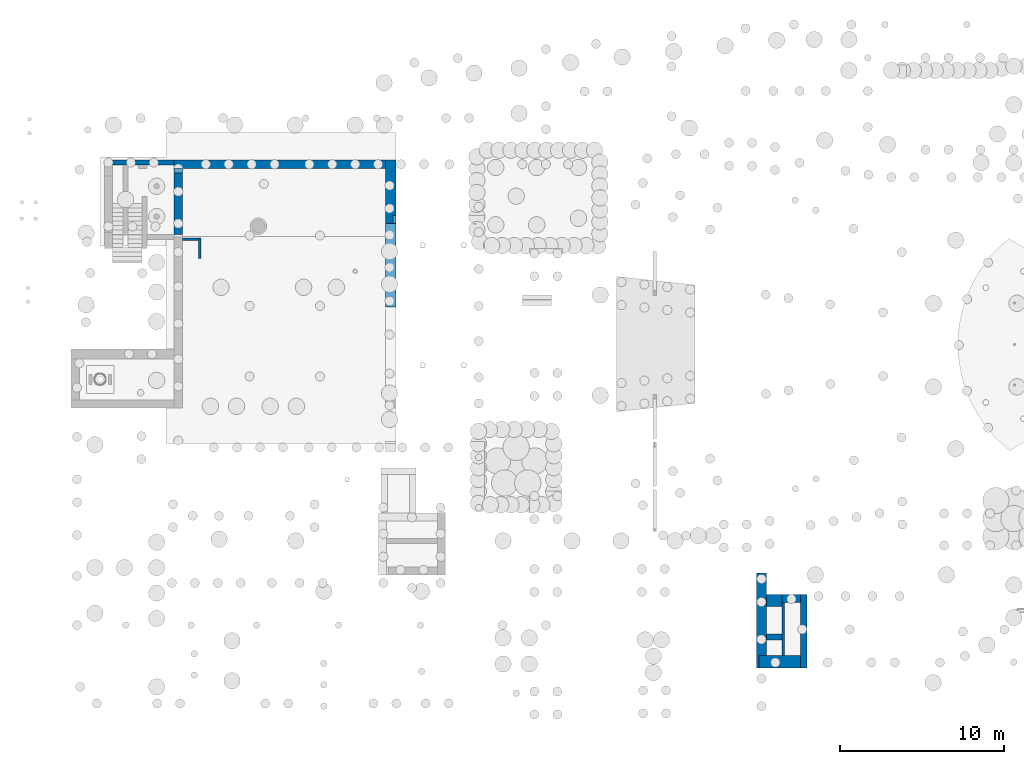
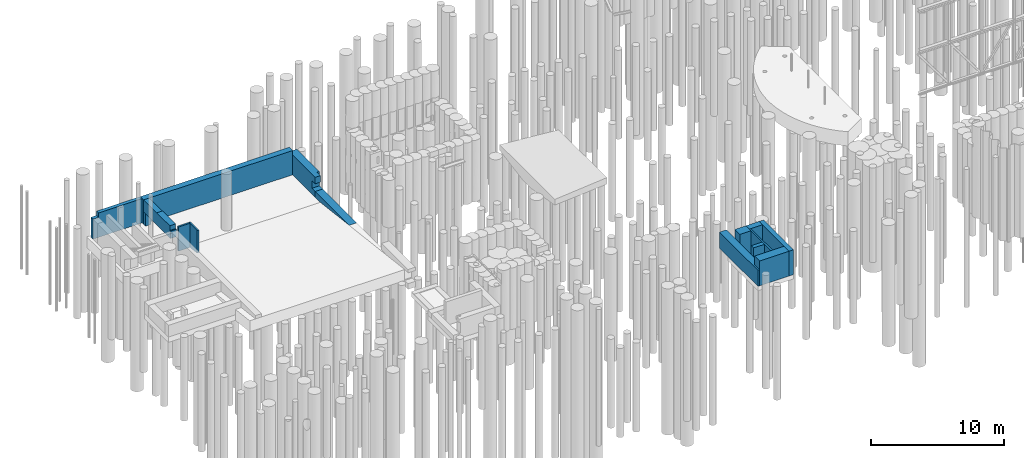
# One storey, part 15 of 104: 15 walls, 3 openings.
"""IFC2X3 building model written with IfcOpenShell, lengths in millimetres."""

from ifc_helpers import new_model, entity, si_unit, converted_unit, derived_unit, direction, frame, frame_2d, origin, place, context, subcontext, project, spatial, polyline, rectangle, extrude, clip, bounded_halfspace, faceted_brep, material, layer, layer_set, layer_usage, type_object, element, save


model = new_model("IFC2X3")

# Units and contexts
model_context = context("Model", 3, precision=0.01, world=origin(), true_north=direction((6.12303176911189e-17, 1.0)))
body_context = subcontext(model_context, "Body", "Model", "MODEL_VIEW")
ifc_project = project(units=[si_unit("LENGTHUNIT", "METRE", prefix="MILLI"), si_unit("AREAUNIT", "SQUARE_METRE", prefix="MILLI"), si_unit("VOLUMEUNIT", "CUBIC_METRE"), converted_unit("PLANEANGLEUNIT", "DEGREE", entity("IfcRatioMeasure", 0.0174532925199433), si_unit("PLANEANGLEUNIT", "RADIAN"), dimensions=[0, 0, 0, 0, 0, 0, 0]), si_unit("MASSUNIT", "GRAM", prefix="KILO"), derived_unit("MASSDENSITYUNIT", [(si_unit("MASSUNIT", "GRAM", prefix="KILO"), 1), (si_unit("LENGTHUNIT", "METRE"), -3)]), derived_unit("MOMENTOFINERTIAUNIT", [(si_unit("LENGTHUNIT", "METRE"), 4)]), si_unit("TIMEUNIT", "SECOND"), si_unit("FREQUENCYUNIT", "HERTZ"), si_unit("THERMODYNAMICTEMPERATUREUNIT", "DEGREE_CELSIUS"), derived_unit("THERMALTRANSMITTANCEUNIT", [(si_unit("MASSUNIT", "GRAM", prefix="KILO"), 1), (si_unit("THERMODYNAMICTEMPERATUREUNIT", "KELVIN"), -1), (si_unit("TIMEUNIT", "SECOND"), -3)]), derived_unit("VOLUMETRICFLOWRATEUNIT", [(si_unit("LENGTHUNIT", "METRE"), 3), (si_unit("TIMEUNIT", "SECOND"), -1)]), si_unit("ELECTRICCURRENTUNIT", "AMPERE"), si_unit("ELECTRICVOLTAGEUNIT", "VOLT"), si_unit("POWERUNIT", "WATT"), si_unit("FORCEUNIT", "NEWTON", prefix="KILO"), si_unit("ILLUMINANCEUNIT", "LUX"), si_unit("LUMINOUSFLUXUNIT", "LUMEN"), si_unit("LUMINOUSINTENSITYUNIT", "CANDELA"), derived_unit("USERDEFINED", [(si_unit("MASSUNIT", "GRAM", prefix="KILO"), -1), (si_unit("LENGTHUNIT", "METRE"), -2), (si_unit("TIMEUNIT", "SECOND"), 3), (si_unit("LUMINOUSFLUXUNIT", "LUMEN"), 1)]), derived_unit("LINEARVELOCITYUNIT", [(si_unit("LENGTHUNIT", "METRE"), 1), (si_unit("TIMEUNIT", "SECOND"), -1)]), si_unit("PRESSUREUNIT", "PASCAL"), derived_unit("USERDEFINED", [(si_unit("LENGTHUNIT", "METRE"), -2), (si_unit("MASSUNIT", "GRAM", prefix="KILO"), 1), (si_unit("TIMEUNIT", "SECOND"), -2)]), derived_unit("LINEARFORCEUNIT", [(si_unit("MASSUNIT", "GRAM", prefix="KILO"), 1), (si_unit("LENGTHUNIT", "METRE"), 1), (si_unit("TIMEUNIT", "SECOND"), -2), (si_unit("LENGTHUNIT", "METRE"), -1)]), derived_unit("PLANARFORCEUNIT", [(si_unit("MASSUNIT", "GRAM", prefix="KILO"), 1), (si_unit("LENGTHUNIT", "METRE"), 1), (si_unit("TIMEUNIT", "SECOND"), -2), (si_unit("LENGTHUNIT", "METRE"), -2)])], contexts=[model_context])

# Site, building, storey
site_placement = place(None, origin())
site = spatial("IfcSite", under=ifc_project, at=site_placement, Name="Theater aan de Parade", CompositionType="ELEMENT")
building_placement = place(site_placement, origin())
building = spatial("IfcBuilding", under=site, at=building_placement, Name="Theater aan de Parade", CompositionType="ELEMENT")
storey_placement = place(building_placement, frame((0.0, 0.0, -5520.0)))
storey = spatial("IfcBuildingStorey", under=building, at=storey_placement, Name="-2 kelder", CompositionType="ELEMENT", Elevation=-5520.0)

# Walls
ifc_material_1 = material(Name="00_PBT_MAT_beton t.p.g.")
ifc_layer_1 = layer(ifc_material_1, 300.0)
ifc_layer_set_1 = layer_set([ifc_layer_1], Name="Basic Wall:16_PBT_WA_beton t.p.g._d=300_bestaand")
ifc_layer_usage_1 = layer_usage(ifc_layer_set_1, "AXIS2", "POSITIVE", -150.0)
wall_type_1 = type_object("IfcWallType", Name="Basic Wall:16_PBT_WA_beton t.p.g._d=300_bestaand", PredefinedType="STANDARD", material=ifc_layer_set_1)
wall_1_placement = place(storey_placement, frame((16275.0, 43550.0, -40.0), z_axis=(0.0, 0.0, 1.0), x_axis=(-1.0, 0.0, 0.0)))
element("IfcWallStandardCase", 1, at=wall_1_placement, inside=storey, type_object=wall_type_1, material=ifc_layer_usage_1, Name="Basic Wall:16_PBT_WA_beton t.p.g._d=300_bestaand", ObjectType="Basic Wall:16_PBT_WA_beton t.p.g._d=300_bestaand", context=body_context, shape_type="Clipping", body=[
    clip(clip(extrude(rectangle(XDim=4265.00000000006, YDim=300.000000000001, at=frame_2d((2132.50000000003, -9.66338120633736e-13), x_axis=(-1.0, 0.0))), origin(), (0.0, 0.0, 1.0), 2220.0), bounded_halfspace(frame((3765.0, 150.0, 1820.0), z_axis=(0.0, 0.0, -1.0), x_axis=(0.0, -1.0, 0.0)), True, frame((3765.0, 150.0, 1820.0), z_axis=(0.0, 0.0, -1.0), x_axis=(0.0, -1.0, 0.0)), polyline([(0.0, 0.0), (0.0, -500.0), (300.0, -500.0), (300.0, 0.0), (0.0, 0.0)]))), bounded_halfspace(frame((3765.0, -150.0, 1820.0), z_axis=(-1.0, 0.0, 0.0), x_axis=(0.0, 0.0, 1.0)), True, frame((3765.0, -150.0, 1820.0), z_axis=(-1.0, 0.0, 0.0), x_axis=(0.0, 0.0, 1.0)), polyline([(0.0, 0.0), (400.0, 0.0), (400.0, 300.0), (0.0, 300.0), (0.0, 0.0)]))),
])
ifc_layer_2 = layer(ifc_material_1, 400.0)
ifc_layer_set_2 = layer_set([ifc_layer_2], Name="Basic Wall:16_PBT_WA_beton t.p.g._d=400_bestaand")
ifc_layer_usage_2 = layer_usage(ifc_layer_set_2, "AXIS2", "POSITIVE", -200.0)
wall_type_2 = type_object("IfcWallType", Name="Basic Wall:16_PBT_WA_beton t.p.g._d=400_bestaand", PredefinedType="STANDARD", material=ifc_layer_set_2)
wall_2_placement = place(storey_placement, frame((54715.0, 12710.0, 320.0), z_axis=(0.0, 0.0, 1.0), x_axis=(0.0, 1.0, 0.0)))
element("IfcWallStandardCase", 2, at=wall_2_placement, inside=storey, type_object=wall_type_2, material=ifc_layer_usage_2, Name="Basic Wall:16_PBT_WA_beton t.p.g._d=400_bestaand", ObjectType="Basic Wall:16_PBT_WA_beton t.p.g._d=400_bestaand", context=body_context, shape_type="SweptSolid", body=[
    extrude(rectangle(XDim=4490.00000000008, YDim=399.999999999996, at=frame_2d((2245.00000000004, 0.0), x_axis=(-1.0, 0.0))), origin(), (0.0, 0.0, 1.0), 2270.0),
])
ifc_layer_3 = layer(ifc_material_1, 500.0)
ifc_layer_set_3 = layer_set([ifc_layer_3], Name="Basic Wall:16_PBT_WA_beton t.p.g._d=500_bestaand")
ifc_layer_usage_3 = layer_usage(ifc_layer_set_3, "AXIS2", "POSITIVE", -250.0)
wall_type_3 = type_object("IfcWallType", Name="Basic Wall:16_PBT_WA_beton t.p.g._d=500_bestaand", PredefinedType="STANDARD", material=ifc_layer_set_3)
wall_3_placement = place(storey_placement, frame((54515.0, 16950.0, 320.0), z_axis=(0.0, 0.0, 1.0), x_axis=(-1.0, 0.0, 0.0)))
element("IfcWallStandardCase", 3, at=wall_3_placement, inside=storey, type_object=wall_type_3, material=ifc_layer_usage_3, Name="Basic Wall:16_PBT_WA_beton t.p.g._d=500_bestaand", ObjectType="Basic Wall:16_PBT_WA_beton t.p.g._d=500_bestaand", context=body_context, shape_type="SweptSolid", body=[
    extrude(rectangle(XDim=1140.0, YDim=499.999999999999, at=frame_2d((570.0, -3.26849658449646e-13), x_axis=(-1.0, 0.0))), origin(), (0.0, 0.0, 1.0), 2270.0),
])
ifc_layer_usage_4 = layer_usage(ifc_layer_set_3, "AXIS2", "NEGATIVE", 250.0)
wall_4_placement = place(storey_placement, frame((16275.0, 43450.0, -40.0)))
element("IfcWallStandardCase", 4, at=wall_4_placement, inside=storey, type_object=wall_type_3, material=ifc_layer_usage_4, Name="Basic Wall:16_PBT_WA_beton t.p.g._d=500_bestaand", ObjectType="Basic Wall:16_PBT_WA_beton t.p.g._d=500_bestaand", context=body_context, shape_type="SweptSolid", body=[
    extrude(rectangle(XDim=12900.0, YDim=500.000000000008, at=frame_2d((6450.0, 2.21689333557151e-12), x_axis=(-1.0, 0.0))), origin(), (0.0, 0.0, 1.0), 2220.0),
])
ifc_layer_4 = layer(ifc_material_1, 750.0)
ifc_layer_set_4 = layer_set([ifc_layer_4], Name="Basic Wall:16_PBT_WA_beton t.p.g._d=750_bestaand")
ifc_layer_usage_5 = layer_usage(ifc_layer_set_4, "AXIS2", "POSITIVE", -375.0)
wall_type_4 = type_object("IfcWallType", Name="Basic Wall:16_PBT_WA_beton t.p.g._d=750_bestaand", PredefinedType="STANDARD", material=ifc_layer_set_4)
wall_5_placement = place(storey_placement, frame((54515.0, 13085.0, 320.0), z_axis=(0.0, 0.0, 1.0), x_axis=(-1.0, 0.0, 0.0)))
element("IfcWallStandardCase", 5, at=wall_5_placement, inside=storey, type_object=wall_type_4, material=ifc_layer_usage_5, Name="Basic Wall:16_PBT_WA_beton t.p.g._d=750_bestaand", ObjectType="Basic Wall:16_PBT_WA_beton t.p.g._d=750_bestaand", context=body_context, shape_type="SweptSolid", body=[
    extrude(rectangle(XDim=2540.0, YDim=749.999999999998, at=frame_2d((1270.0, -4.83169060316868e-13), x_axis=(-1.0, 0.0))), origin(), (0.0, 0.0, 1.0), 2270.0),
])
ifc_layer_usage_6 = layer_usage(ifc_layer_set_4, "AXIS2", "POSITIVE", -375.0)
wall_6_placement = place(storey_placement, frame((53375.0, 16825.0, 320.0), z_axis=(0.0, 0.0, 1.0), x_axis=(-1.0, 0.0, 0.0)))
element("IfcWallStandardCase", 6, at=wall_6_placement, inside=storey, type_object=wall_type_4, material=ifc_layer_usage_6, Name="Basic Wall:16_PBT_WA_beton t.p.g._d=750_bestaand", ObjectType="Basic Wall:16_PBT_WA_beton t.p.g._d=750_bestaand", context=body_context, shape_type="SweptSolid", body=[
    extrude(rectangle(XDim=949.999999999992, YDim=749.999999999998, at=frame_2d((474.999999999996, 2.8421709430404e-13), x_axis=(-1.0, 0.0))), origin(), (0.0, 0.0, 1.0), 2270.0),
])
ifc_layer_5 = layer(ifc_material_1, 350.0)
ifc_layer_set_5 = layer_set([ifc_layer_5], Name="Basic Wall:28_PBT_WA_beton t.p.g._d=350_bestaand")
ifc_layer_usage_7 = layer_usage(ifc_layer_set_5, "AXIS2", "POSITIVE", -175.0)
wall_type_5 = type_object("IfcWallType", Name="Basic Wall:28_PBT_WA_beton t.p.g._d=350_bestaand", PredefinedType="STANDARD", material=ifc_layer_set_5)
wall_7_placement = place(storey_placement, frame((53375.0, 14585.0, 320.0), z_axis=(0.0, 0.0, 1.0), x_axis=(-1.0, 0.0, 0.0)))
element("IfcWallStandardCase", 7, at=wall_7_placement, inside=storey, type_object=wall_type_5, material=ifc_layer_usage_7, Name="Basic Wall:28_PBT_WA_beton t.p.g._d=350_bestaand", ObjectType="Basic Wall:28_PBT_WA_beton t.p.g._d=350_bestaand", context=body_context, shape_type="SweptSolid", body=[
    extrude(rectangle(XDim=949.999999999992, YDim=349.999999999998, at=frame_2d((474.999999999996, 3.5527136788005e-13), x_axis=(-1.0, 0.0))), origin(), (0.0, 0.0, 1.0), 2270.0),
])
ifc_layer_6 = layer(ifc_material_1, 150.0)
ifc_layer_set_6 = layer_set([ifc_layer_6], Name="Basic Wall:28_PBT_WA_beton t.p.g._d=150_bestaand")
ifc_layer_usage_8 = layer_usage(ifc_layer_set_6, "AXIS2", "POSITIVE", -75.0)
wall_type_6 = type_object("IfcWallType", Name="Basic Wall:28_PBT_WA_beton t.p.g._d=150_bestaand", PredefinedType="STANDARD", material=ifc_layer_set_6)
wall_8_placement = place(storey_placement, frame((53450.0, 13460.0, 320.0), z_axis=(0.0, 0.0, 1.0), x_axis=(0.0, 1.0, 0.0)))
element("IfcWallStandardCase", 8, at=wall_8_placement, inside=storey, type_object=wall_type_6, material=ifc_layer_usage_8, Name="Basic Wall:28_PBT_WA_beton t.p.g._d=150_bestaand", ObjectType="Basic Wall:28_PBT_WA_beton t.p.g._d=150_bestaand", context=body_context, shape_type="SweptSolid", body=[
    extrude(rectangle(XDim=3240.00000000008, YDim=150.000000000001, at=frame_2d((1620.00000000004, 0.0), x_axis=(-1.0, 0.0))), origin(), (0.0, 0.0, 1.0), 2270.0),
])
ifc_layer_7 = layer(ifc_material_1, 600.0)
ifc_layer_set_7 = layer_set([ifc_layer_7], Name="Basic Wall:16_PBT_WA_beton t.p.g._d=600_bestaand")
ifc_layer_usage_9 = layer_usage(ifc_layer_set_7, "AXIS2", "POSITIVE", -300.0)
wall_type_7 = type_object("IfcWallType", Name="Basic Wall:16_PBT_WA_beton t.p.g._d=600_bestaand", PredefinedType="STANDARD", material=ifc_layer_set_7)
wall_9_placement = place(storey_placement, frame((52125.0, 12710.0, 320.0), z_axis=(0.0, 0.0, 1.0), x_axis=(0.0, 1.0, 0.0)))
element("IfcWallStandardCase", 9, at=wall_9_placement, inside=storey, type_object=wall_type_7, material=ifc_layer_usage_9, Name="Basic Wall:16_PBT_WA_beton t.p.g._d=600_bestaand", ObjectType="Basic Wall:16_PBT_WA_beton t.p.g._d=600_bestaand", context=body_context, shape_type="SweptSolid", body=[
    extrude(rectangle(XDim=5775.00000000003, YDim=600.000000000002, at=frame_2d((2887.50000000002, 0.0), x_axis=(-1.0, 0.0))), origin(), (0.0, 0.0, 1.0), 1460.0),
])
ifc_layer_8 = layer(ifc_material_1, 500.0)
ifc_layer_set_8 = layer_set([ifc_layer_8], Name="Basic Wall:28_PBT_WA_beton t.p.g._d=500_bestaand")
ifc_layer_usage_10 = layer_usage(ifc_layer_set_8, "AXIS2", "POSITIVE", -250.0)
wall_type_8 = type_object("IfcWallType", Name="Basic Wall:28_PBT_WA_beton t.p.g._d=500_bestaand", PredefinedType="STANDARD", material=ifc_layer_set_8)
wall_10_placement = place(storey_placement, frame((16525.0, 42901.2820033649, -40.0), z_axis=(0.0, 0.0, 1.0), x_axis=(0.0, 1.0, 0.0)))
element("IfcWallStandardCase", 10, at=wall_10_placement, inside=storey, type_object=wall_type_8, material=ifc_layer_usage_10, Name="Basic Wall:28_PBT_WA_beton t.p.g._d=500_bestaand", ObjectType="Basic Wall:28_PBT_WA_beton t.p.g._d=500_bestaand", context=body_context, shape_type="SweptSolid", body=[
    extrude(rectangle(XDim=298.717996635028, YDim=499.999999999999, at=frame_2d((149.358998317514, -5.54223333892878e-13), x_axis=(-1.0, 0.0))), origin(), (0.0, 0.0, 1.0), 1140.0),
])
ifc_layer_9 = layer(ifc_material_1, 650.0)
ifc_layer_set_9 = layer_set([ifc_layer_9], Name="Basic Wall:16_PBT_WA_beton t.p.g._d=650_bestaand")
wall_type_9 = type_object("IfcWallType", Name="Basic Wall:16_PBT_WA_beton t.p.g._d=650_bestaand", PredefinedType="STANDARD", material=ifc_layer_set_9)
wall_11_placement = place(storey_placement, frame((29500.0, 34725.7894736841, -40.0), z_axis=(0.0, 0.0, 1.0), x_axis=(0.0, 1.0, 0.0)))
element("IfcWall", 11, at=wall_11_placement, inside=storey, type_object=wall_type_9, Name="Basic Wall:16_PBT_WA_beton t.p.g._d=650_bestaand", ObjectType="Basic Wall:16_PBT_WA_beton t.p.g._d=650_bestaand", context=body_context, shape_type="Brep", body=[
    faceted_brep([(5094.21052631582, -325.0, 0.0), (5094.21052631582, -325.0, 520.0), (0.0, -325.0, 520.0), (4324.21052631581, -325.0, 0.0), (5094.21052631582, 325.0, 520.0), (5094.21052631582, 325.0, 0.0), (4324.21052631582, 325.0, 0.0), (0.0, 325.0, 520.0)], [[[0, 1, 2, 3]], [[4, 5, 6, 7]], [[1, 0, 5, 4]], [[1, 4, 7, 2]], [[5, 0, 3, 6]], [[3, 2, 7, 6]]]),
])

# Wall, opening
ifc_layer_usage_11 = layer_usage(ifc_layer_set_9, "AXIS2", "NEGATIVE", 325.0)
wall_12_placement = place(storey_placement, frame((29500.0, 43700.0, -40.0), z_axis=(0.0, 0.0, 1.0), x_axis=(0.0, -1.0, 0.0)))
wall_12 = element("IfcWallStandardCase", 12, at=wall_12_placement, inside=storey, type_object=wall_type_9, material=ifc_layer_usage_11, Name="Basic Wall:16_PBT_WA_beton t.p.g._d=650_bestaand", ObjectType="Basic Wall:16_PBT_WA_beton t.p.g._d=650_bestaand", context=body_context, shape_type="Clipping", body=[
    clip(clip(extrude(rectangle(XDim=3880.00000000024, YDim=650.0, at=frame_2d((1940.00000000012, 0.0), x_axis=(-1.0, 0.0))), origin(), (0.0, 0.0, 1.0), 1820.0), bounded_halfspace(frame((3380.0, 135.0, 1820.0), z_axis=(-1.0, 0.0, 0.0), x_axis=(0.0, -1.0, 0.0)), True, frame((3380.0, 135.0, 1820.0), z_axis=(-1.0, 0.0, 0.0), x_axis=(0.0, -1.0, 0.0)), polyline([(0.0, 0.0), (-190.0, 0.0), (-190.0, -1300.0), (460.0, -1300.0), (460.0, -600.0), (0.0, -600.0), (0.0, 0.0)]))), bounded_halfspace(frame((3380.0, 135.0, 1220.0), z_axis=(0.0, -1.0, 0.0), x_axis=(1.0, 0.0, 0.0)), True, frame((3380.0, 135.0, 1220.0), z_axis=(0.0, -1.0, 0.0), x_axis=(1.0, 0.0, 0.0)), polyline([(0.0, 0.0), (500.0, 0.0), (500.0, 600.0), (0.0, 600.0), (0.0, 0.0)]))),
])
opening_1_placement = place(storey_placement, frame((29500.0, 43700.0, -40.0), z_axis=(0.0, 0.0, 1.0), x_axis=(0.0, -1.0, 0.0)))
element("IfcOpeningElement", 13, at=opening_1_placement, cuts=wall_12, Name="Basic Wall:16_PBT_WA_beton t.p.g._d=650_bestaand:1", ObjectType="Opening", context=body_context, shape_type="SweptSolid", body=[
    extrude(rectangle(XDim=650.00000000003, YDim=499.999999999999, at=frame_2d((-4.34852154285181e-12, -4.33431068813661e-12), x_axis=(1.0, 0.0))), frame((3630.0, 0.0, 520.0), z_axis=(0.0, 0.0, 1.0), x_axis=(0.0, -1.0, 0.0)), (0.0, 0.0, 1.0), 700.0),
])

# Wall, openings
ifc_material_2 = material(Name="00_PBT_MAT_beton t.p.g._C30/37")
ifc_layer_10 = layer(ifc_material_2, 500.0)
ifc_layer_set_10 = layer_set([ifc_layer_10], Name="Basic Wall:28_PBT_WA_beton t.p.g._d=500_C30/37")
ifc_layer_usage_12 = layer_usage(ifc_layer_set_10, "AXIS2", "POSITIVE", -250.0)
wall_type_10 = type_object("IfcWallType", Name="Basic Wall:28_PBT_WA_beton t.p.g._d=500_C30/37", PredefinedType="STANDARD", material=ifc_layer_set_10)
wall_13_placement = place(storey_placement, frame((16525.0, 39150.0, 1100.0), z_axis=(0.0, 0.0, 1.0), x_axis=(0.0, 1.0, 0.0)))
wall_13 = element("IfcWallStandardCase", 14, at=wall_13_placement, inside=storey, type_object=wall_type_10, material=ifc_layer_usage_12, Name="Basic Wall:28_PBT_WA_beton t.p.g._d=500_C30/37", ObjectType="Basic Wall:28_PBT_WA_beton t.p.g._d=500_C30/37", context=body_context, shape_type="Clipping", body=[
    clip(extrude(rectangle(XDim=4050.00000000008, YDim=499.999999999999, at=frame_2d((2025.00000000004, -3.97903932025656e-13), x_axis=(-1.0, 0.0))), origin(), (0.0, 0.0, 1.0), 1110.0), bounded_halfspace(frame((100.0, -250.0, 680.0), z_axis=(0.0, 0.0, -1.0), x_axis=(1.0, 0.0, 0.0)), True, frame((100.0, -250.0, 680.0), z_axis=(0.0, 0.0, -1.0), x_axis=(1.0, 0.0, 0.0)), polyline([(0.0, 0.0), (-100.0, 0.0), (-100.0, -500.0), (0.0, -500.0), (0.0, 0.0)]))),
])
opening_2_placement = place(wall_13_placement, origin())
element("IfcOpeningElement", 15, at=opening_2_placement, cuts=wall_13, Name="Basic Wall:28_PBT_WA_beton t.p.g._d=500_C30/37", ObjectType="Opening", context=body_context, shape_type="SweptSolid", body=[
    extrude(rectangle(XDim=30.0000000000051, YDim=2000.00000000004, at=frame_2d((-2.70894418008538e-13, -4.32009983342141e-12), x_axis=(1.0, 0.0))), frame((3050.0, 250.0, 1095.0), z_axis=(0.0, -1.0, 0.0), x_axis=(0.0, 0.0, 1.0)), (0.0, 0.0, 1.0), 500.0),
])
opening_3_placement = place(wall_13_placement, origin())
element("IfcOpeningElement", 16, at=opening_3_placement, cuts=wall_13, Name="Basic Wall:28_PBT_WA_beton t.p.g._d=500_C30/37", ObjectType="Opening", context=body_context, shape_type="SweptSolid", body=[
    extrude(rectangle(XDim=30.0000000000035, YDim=100.000000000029, at=frame_2d((0.0, -2.70006239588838e-13), x_axis=(0.0, 1.0))), frame((50.0, 250.0, 1095.0), z_axis=(0.0, -1.0, 0.0), x_axis=(-1.0, 0.0, 0.0)), (0.0, 0.0, 1.0), 500.0),
])

# Walls
ifc_material_3 = material(Name="00_PBT_MAT_kalkzandsteen_CS20")
ifc_layer_11 = layer(ifc_material_3, 150.0)
ifc_layer_set_11 = layer_set([ifc_layer_11], Name="Basic Wall:28_PBT_WA_kzs_d=150_CS20")
ifc_layer_usage_13 = layer_usage(ifc_layer_set_11, "AXIS2", "NEGATIVE", 75.0)
wall_type_11 = type_object("IfcWallType", Name="Basic Wall:28_PBT_WA_kzs_d=150_CS20", PredefinedType="STANDARD", material=ifc_layer_set_11)
wall_14_placement = place(storey_placement, frame((17825.0, 37708.9974887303, -27.4934412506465), z_axis=(0.0, 0.0, 1.0), x_axis=(0.0, 1.0, 0.0)))
element("IfcWallStandardCase", 17, at=wall_14_placement, inside=storey, type_object=wall_type_11, material=ifc_layer_usage_13, Name="Basic Wall:28_PBT_WA_kzs_d=150_CS20", ObjectType="Basic Wall:28_PBT_WA_kzs_d=150_CS20", context=body_context, shape_type="Clipping", body=[
    clip(extrude(rectangle(XDim=1237.00060166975, YDim=150.000000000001, at=frame_2d((618.500300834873, 6.32383034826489e-13), x_axis=(-1.0, 0.0))), origin(), (0.0, 0.0, 1.0), 2227.49344125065), bounded_halfspace(frame((1237.00060166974, -75.0, 0.0), z_axis=(0.119393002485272, 0.0, 0.992847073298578), x_axis=(0.992847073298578, 0.0, -0.119393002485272)), True, frame((1237.00060166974, -75.0, 0.0)), polyline([(0.0, 0.0), (0.0, 150.0), (-150.0, 150.0), (-1237.00060166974, 150.0), (-1237.00060166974, 0.0), (0.0, 0.0)]))),
])
ifc_layer_usage_14 = layer_usage(ifc_layer_set_11, "AXIS2", "POSITIVE", -75.0)
wall_15_placement = place(storey_placement, frame((16775.0, 38870.9980904, -27.4934412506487)))
element("IfcWallStandardCase", 18, at=wall_15_placement, inside=storey, type_object=wall_type_11, material=ifc_layer_usage_14, Name="Basic Wall:28_PBT_WA_kzs_d=150_CS20", ObjectType="Basic Wall:28_PBT_WA_kzs_d=150_CS20", context=body_context, shape_type="Clipping", body=[
    clip(extrude(rectangle(XDim=974.999999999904, YDim=150.000000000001, at=frame_2d((487.499999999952, 5.96855898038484e-13), x_axis=(-1.0, 0.0))), origin(), (0.0, 0.0, 1.0), 2227.49344125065), bounded_halfspace(frame((975.0, -75.0, 18.0379746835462), z_axis=(0.0, 0.119393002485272, 0.992847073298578), x_axis=(0.0, 0.992847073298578, -0.119393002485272)), True, frame((975.0, -75.0, 18.0379746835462)), polyline([(0.0, 0.0), (0.0, 150.0), (-975.0, 150.0), (-975.0, 0.0), (0.0, 0.0)]))),
])

save(model, "model.ifc")
